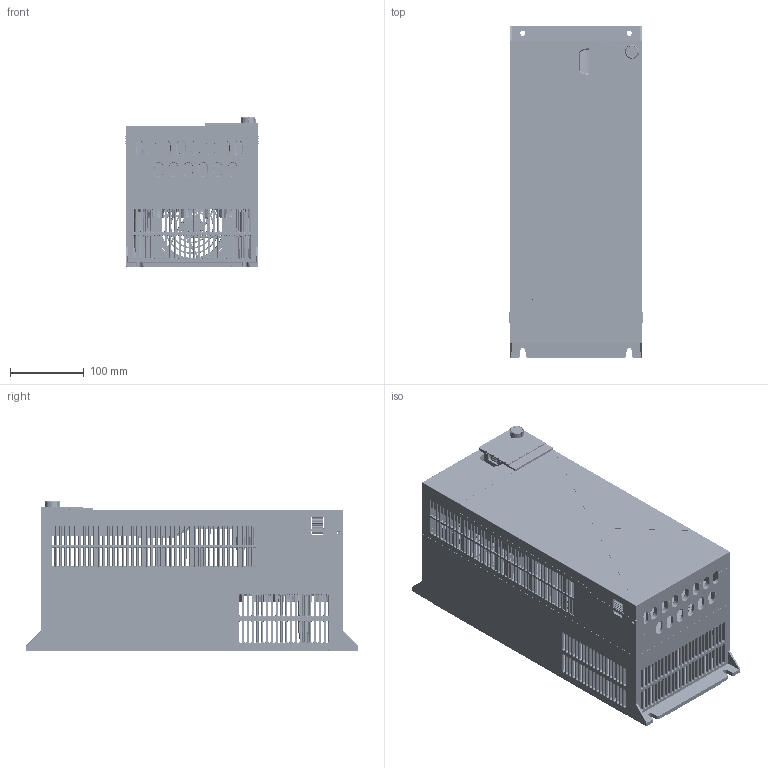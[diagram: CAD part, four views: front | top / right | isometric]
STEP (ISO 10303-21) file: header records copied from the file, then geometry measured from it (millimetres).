
FILE_DESCRIPTION((''),'2;1');
FILE_NAME('PRT0001','2025-03-13T15:07:56',('A003926'),(''),'CREO PARAMETRIC BY PTC INC, 2020074','CREO PARAMETRIC BY PTC INC, 2020074','');
FILE_SCHEMA(('CONFIG_CONTROL_DESIGN'));
Products named in the file (1): PRT0001
Bounding box: 181 x 450 x 203.8 mm (x, y, z)
Volume: 1362942 mm3; surface area: 1254384.6 mm2
Topology: 5 solids, 93 shells, 12184 faces, 33447 edges, 21584 vertices
Faces by surface type: plane 8268, cylinder 1975, cone 1129, bspline 442, torus 155, extrusion 142, sphere 73
Entity records: 407574 total; most frequent: CARTESIAN_POINT 102721, ORIENTED_EDGE 66870, DIRECTION 57623, EDGE_CURVE 33435, VECTOR 24567, LINE 24425, VERTEX_POINT 21584, AXIS2_PLACEMENT_3D 16528
